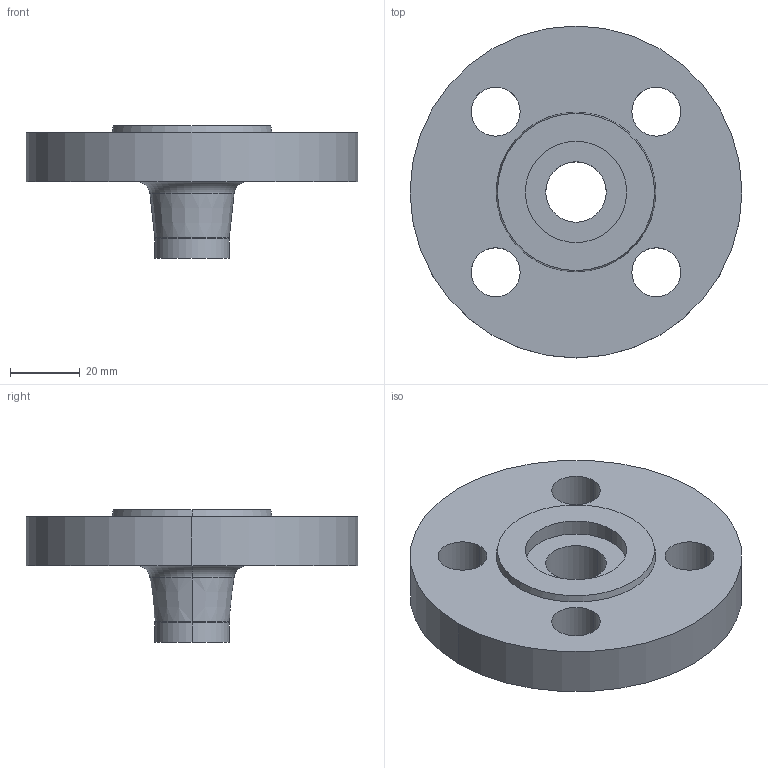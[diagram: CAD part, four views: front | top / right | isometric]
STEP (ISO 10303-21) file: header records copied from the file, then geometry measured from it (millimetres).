
FILE_DESCRIPTION (( 'STEP AP214' ), '1' );
FILE_NAME ('PN40 DN15 Type 11 - Type G Face.STEP', '2018-12-29T15:02:46', ( '' ), ( '' ), 'SwSTEP 2.0', 'SolidWorks 2019', '' );
FILE_SCHEMA (( 'AUTOMOTIVE_DESIGN' ));
Length unit declared in the file: millimetre
Products named in the file (1): PN40 DN15 Type 11 - Type G Face
Bounding box: 95 x 95 x 38 mm (x, y, z)
Volume: 92064.7 mm3; surface area: 22929.7 mm2
Topology: 1 solids, 1 shells, 29 faces, 66 edges, 42 vertices
Faces by surface type: cylinder 16, plane 5, torus 4, cone 4
Entity records: 892 total; most frequent: DIRECTION 172, CARTESIAN_POINT 138, ORIENTED_EDGE 132, AXIS2_PLACEMENT_3D 76, EDGE_CURVE 66, CIRCLE 46, EDGE_LOOP 42, VERTEX_POINT 42
